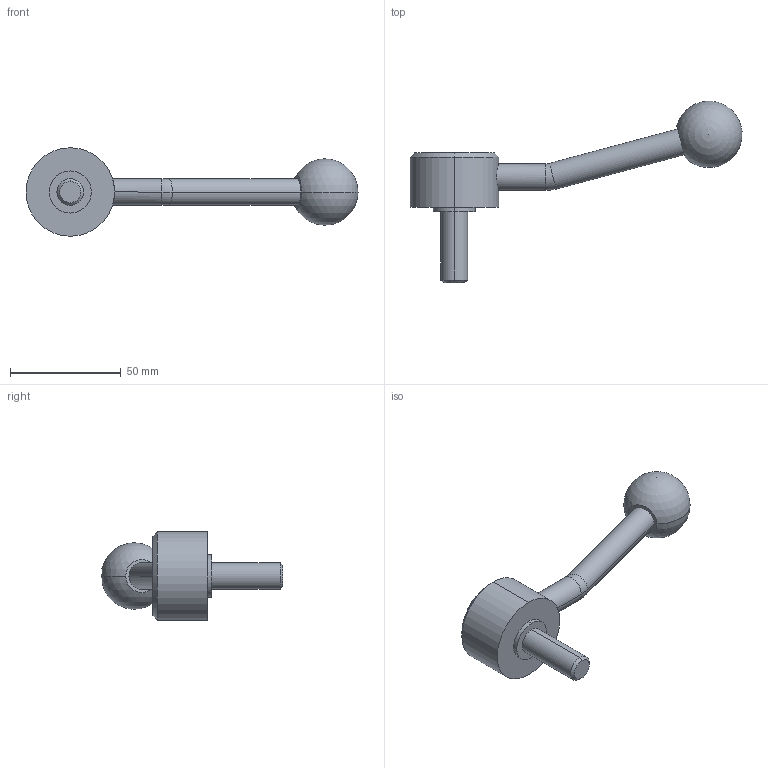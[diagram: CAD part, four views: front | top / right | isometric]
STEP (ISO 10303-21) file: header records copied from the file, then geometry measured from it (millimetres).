
FILE_DESCRIPTION (( 'STEP AP214' ), '1' );
FILE_NAME ('125.5-40-M12-32-E.step', '2020-02-18T11:37:20', ( '' ), ( '' ), 'SwSTEP 2.0', 'SolidWorks 2019', '' );
FILE_SCHEMA (( 'AUTOMOTIVE_DESIGN' ));
Length unit declared in the file: millimetre
Products named in the file (1): 125.5-40-M12-32-E
Bounding box: 149.94 x 81.94 x 40 mm (x, y, z)
Volume: 58366.9 mm3; surface area: 12541.5 mm2
Topology: 1 solids, 1 shells, 26 faces, 55 edges, 34 vertices
Faces by surface type: cylinder 12, plane 6, cone 4, torus 2, sphere 2
Entity records: 850 total; most frequent: CARTESIAN_POINT 192, DIRECTION 134, ORIENTED_EDGE 100, AXIS2_PLACEMENT_3D 59, EDGE_CURVE 50, CIRCLE 32, EDGE_LOOP 31, VERTEX_POINT 31
